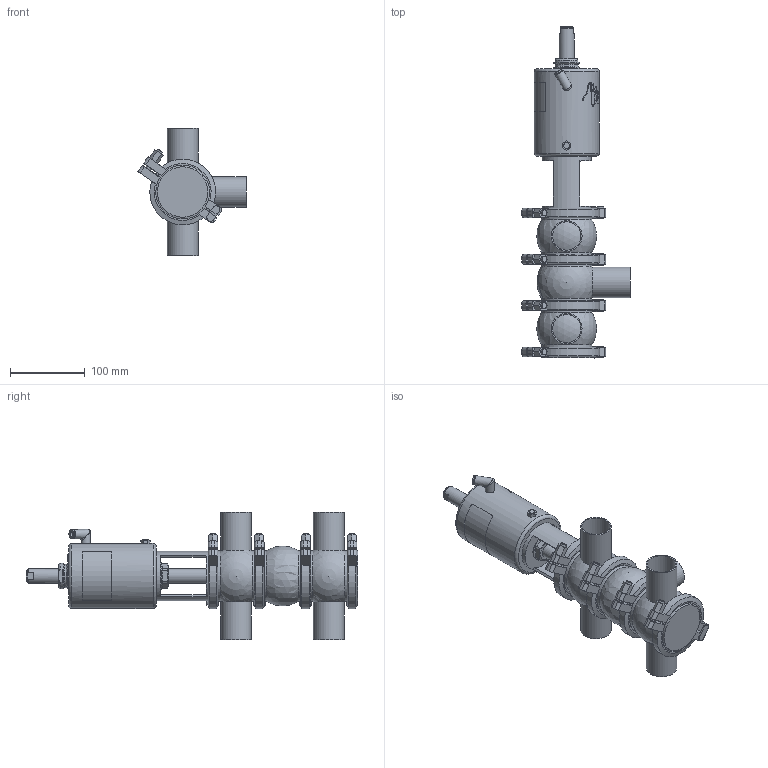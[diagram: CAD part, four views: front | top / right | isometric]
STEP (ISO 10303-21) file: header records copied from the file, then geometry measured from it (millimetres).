
FILE_DESCRIPTION (( 'STEP AP214' ), '1' );
FILE_NAME ('INNOVA L W W DIN 040 T1 AS NC_10.241.16.0028.STEP', '2024-08-07T07:07:03', ( '' ), ( '' ), 'SwSTEP 2.0', 'SolidWorks 2023', '' );
FILE_SCHEMA (( 'AUTOMOTIVE_DESIGN' ));
Length unit declared in the file: millimetre
Products named in the file (7): 10.241.15.0001_DIN 040; 10.240.15.0014_T1 AS P180; 10.240.15.0001_DN 040; 10.240.15.0007_DIN 040; 10.240.15.0010_DN 040; INNOVA L W W DIN 040 T1 AS NC_10.241.16.0028; 10.240.15.0006_DIN 040
Assembly tree (10 placements, depth 2):
  INNOVA L W W DIN 040 T1 AS NC_10.241.16.0028
    10.240.15.0007_DIN 040  x2
    10.240.15.0006_DIN 040
    10.240.15.0010_DN 040
    10.240.15.0014_T1 AS P180
    10.240.15.0001_DN 040  x4
    10.241.15.0001_DIN 040
Bounding box: 145.13 x 444.07 x 170 mm (x, y, z)
Volume: 1828994.2 mm3; surface area: 300579.6 mm2
Topology: 11 solids, 11 shells, 540 faces, 1412 edges, 920 vertices
Faces by surface type: plane 262, cylinder 140, bspline 80, cone 46, sphere 8, torus 4
Full cylindrical faces by diameter (mm): 6.15 x1, 8 x9, 8.5 x1, 10.5 x1, 12.5 x3, 16 x1, 20 x2, 31 x1, 34.5 x2, 36.5 x1, 38 x5, 41 x5, 66 x1, 67.5 x7, 79.5 x8, 87 x1
Entity records: 19653 total; most frequent: CARTESIAN_POINT 10224, ORIENTED_EDGE 1624, DIRECTION 1275, EDGE_CURVE 812, VERTEX_POINT 563, AXIS2_PLACEMENT_3D 493, EDGE_LOOP 431, FACE_OUTER_BOUND 386
